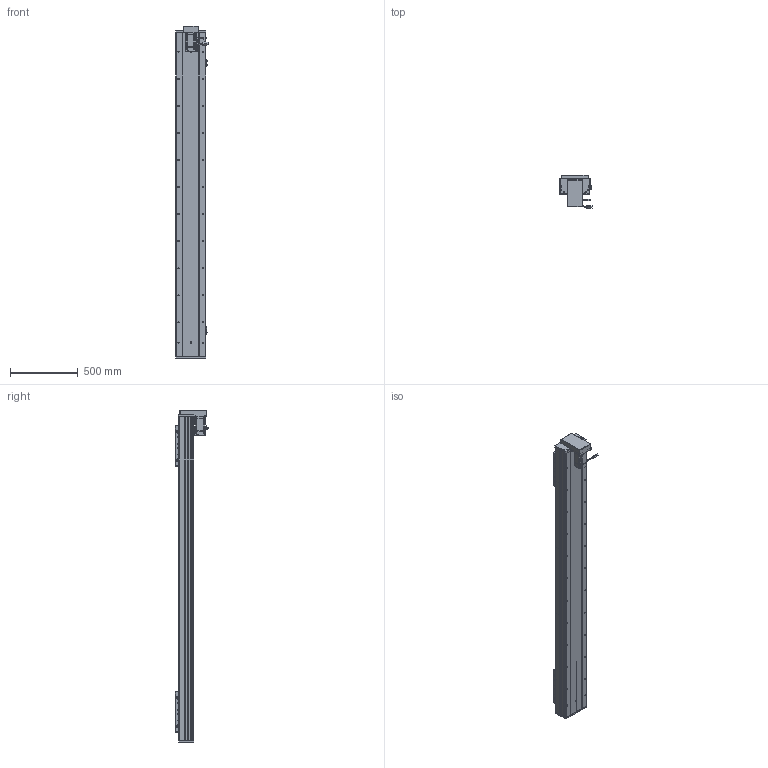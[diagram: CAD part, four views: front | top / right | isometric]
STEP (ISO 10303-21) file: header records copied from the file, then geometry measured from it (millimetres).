
FILE_DESCRIPTION (( 'STEP AP203' ), '1' );
FILE_NAME ('RY220F-L2525-800-BK-邧嶺.SLDASM_1950.step', '2022-08-06T08:08:39', ( '' ), ( '' ), 'SwSTEP 2.0', 'SolidWorks 2016', '' );
FILE_SCHEMA (( 'CONFIG_CONTROL_DESIGN' ));
Length unit declared in the file: millimetre
Products named in the file (15): RY220F-L2525-800-BK-邧嶺.SLDASM_1950; RY220F蛌殏菁釱-800-邧嶺_1950; 覜茼ん672; 侐源滅袉蝶; RY220F臏賑釱25-32佪裝; RY220F-詩湍揤踡輸; RY220F-祥凄詩湍-蛌殏-800_1950; RY220狟殏萇儂欶; RY220F綴裔啣; 滅袉蝶18-24; RY220F-滅鳥奻裔; RY220F-蛌殏奻裔啣-800_1950; RY220F-672覜茼んえ; RY220狟殏萇儂假蚾啣; 怢湛750W_ECMA-CX0807ES
Assembly tree (24 placements, depth 2):
  RY220F-L2525-800-BK-邧嶺.SLDASM_1950
    RY220F蛌殏菁釱-800-邧嶺_1950
    RY220F-蛌殏奻裔啣-800_1950  x2
    怢湛750W_ECMA-CX0807ES
    RY220F臏賑釱25-32佪裝  x2
    RY220F-滅鳥奻裔  x2
    滅袉蝶18-24  x3
    RY220F綴裔啣
    RY220F-祥凄詩湍-蛌殏-800_1950
    RY220F-詩湍揤踡輸  x2
    覜茼ん672  x3
    RY220F-672覜茼んえ  x2
    侐源滅袉蝶  x2
    RY220狟殏萇儂假蚾啣
    RY220狟殏萇儂欶
Bounding box: 237.27 x 247.24 x 2453 mm (x, y, z)
Volume: 20869530 mm3; surface area: 5515036.1 mm2
Topology: 25 solids, 25 shells, 2919 faces, 7910 edges, 4857 vertices
Faces by surface type: cylinder 1314, plane 1062, cone 472, bspline 45, sphere 16, torus 10
Entity records: 72729 total; most frequent: CARTESIAN_POINT 19323, ORIENTED_EDGE 10746, DIRECTION 10585, EDGE_CURVE 5373, AXIS2_PLACEMENT_3D 3786, VERTEX_POINT 3473, LINE 3013, VECTOR 3013
